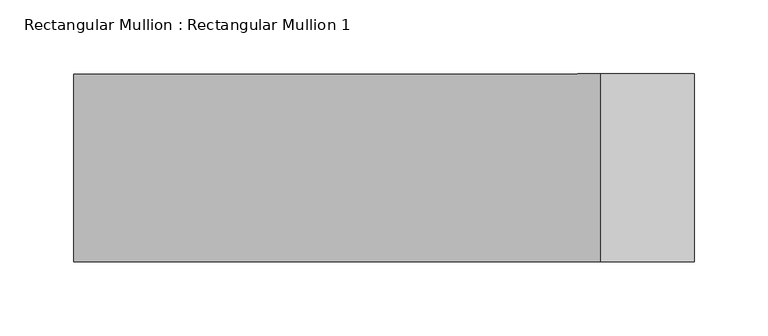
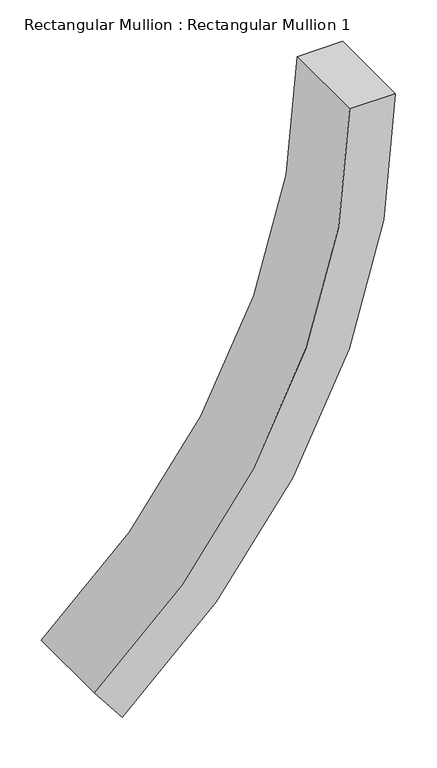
"""IFC4 building model written with IfcOpenShell, lengths in millimetres: member geometry, Rectangular Mullion : Rectangular Mullion 1."""

from ifc_helpers import new_model, si_unit, point, frame, frame_2d, origin, place, context, project, spatial, polyline, circle_curve, trimmed, segment, composite_curve, outline, extrude, source, transform, mapped, element, save


def rectangular_mullion_rectangular_mullion_1_041cd801(model_context):
    return source(origin(), model_context, "Body", "SweptSolid", [
        extrude(outline(composite_curve([segment(trimmed(circle_curve(frame_2d((0.0, -1000.0)), 1000.0), [point((-784.60181, -380.0000002))], [point((0.0, 0.0))], False, "CARTESIAN"), True, "CONTINUOUS"), segment(polyline([(0.0, 0.0), (0.0, -63.5)]), True, "CONTINUOUS"), segment(trimmed(circle_curve(frame_2d((0.0, -1000.0)), 936.5), [point((0.0, -63.5))], [point((-734.779595, -419.3700001))], True, "CARTESIAN"), True, "CONTINUOUS"), segment(polyline([(-734.779595, -419.3700001), (-784.60181, -380.0000002)]), True, "CONTINUOUS")], self_intersect=False)), frame((0.0, -63.5, 0.0), z_axis=(0.0, 1.0, 0.0), x_axis=(0.0, 0.0, 1.0)), (0.0, 0.0, 1.0), 127.0),
    ])


if __name__ == "__main__":
    model = new_model("IFC4")
    model_context = context("Model", 3, world=origin())
    ifc_project = project(units=[si_unit("LENGTHUNIT", "METRE", prefix="MILLI")], contexts=[model_context])
    site = spatial("IfcSite", under=ifc_project)
    building = spatial("IfcBuilding", under=site)
    placement = place(None, origin())
    rectangular_mullion_rectangular_mullion_1_shape = rectangular_mullion_rectangular_mullion_1_041cd801(model_context)
    element("IfcMember", 1, ObjectType="Rectangular Mullion : Rectangular Mullion 1", at=placement, inside=building, context=model_context, shape_type="MappedRepresentation", body=[
        mapped(rectangular_mullion_rectangular_mullion_1_shape, transform((0.0, 0.0, 0.0), x_axis=(1.0, 0.0, 0.0), y_axis=(0.0, 1.0, 0.0), z_axis=(0.0, 0.0, 1.0))),
    ])
    save(model, "model.ifc")
